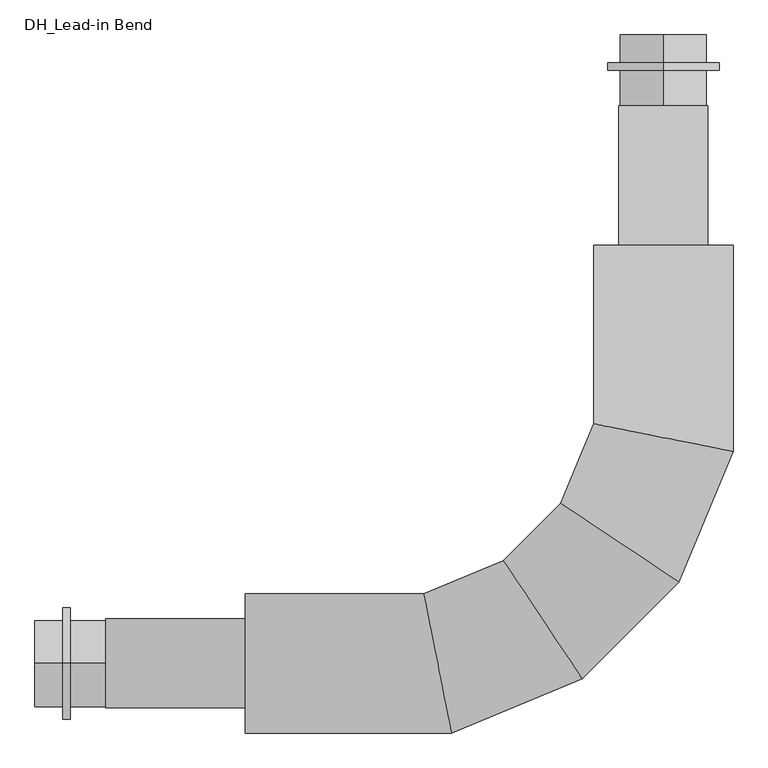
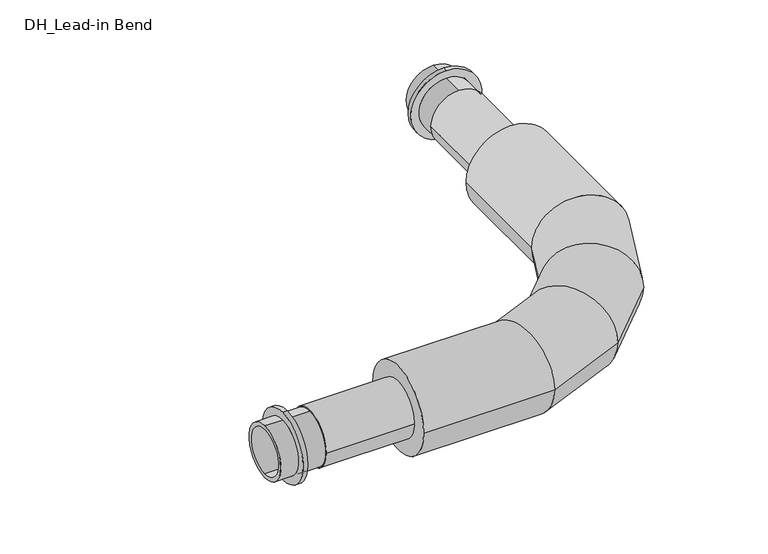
"""IFC4 building model written with IfcOpenShell, lengths in millimetres: pipe fitting geometry, DH_Lead-in Bend : RVT/RVX/RTX UNO 11 Heating Steel."""

from ifc_helpers import new_model, si_unit, point, frame, origin, origin_2d, place, context, project, spatial, polyline, circle_curve, ellipse_curve, trimmed, segment, composite_curve, outline, extrude, source, transform, mapped, element, save
from ifc_brep_helpers import plane_surface, cylinder_surface, revolved_surface, advanced_brep


def dh_lead_in_bend_0ec1a931(model_context):
    return source(origin(), model_context, "Body", "SolidModel", [
        advanced_brep(
        [(-750.0, -125.0, 0.0), (-750.0, 125.0, 0.0), (-380.1359541, -125.0, 0.0), (-429.8640459, 125.0, 0.0), (125.0, 750.0, 0.0), (-125.0, 750.0, 0.0), (-125.0, 429.8640459, 0.0), (125.0, 380.1359541, 0.0), (-145.4932282, -27.8078006, 0.0), (-287.1068525, 184.1319656, 0.0), (27.8078006, 145.4932282, 0.0), (-184.1319656, 287.1068525, 0.0)],
        [
            (0, 1, circle_curve(frame((-750.0, 0.0, 0.0), z_axis=(-1.0, 0.0, 0.0), x_axis=(0.0, 1.0, 0.0)), 125.0)),
            (1, 0, circle_curve(frame((-750.0, 0.0, 0.0), z_axis=(-1.0, 0.0, 0.0), x_axis=(0.0, 1.0, 0.0)), 125.0)),
            (0, 2),
            (2, 3, ellipse_curve(frame((-405.0, 0.0, 0.0), z_axis=(-0.9807852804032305, -0.1950903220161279, 0.0), x_axis=(-0.19509032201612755, 0.9807852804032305, 0.0)), 127.4488948, 125.0)),
            (3, 1),
            (3, 2, ellipse_curve(frame((-405.0, 0.0, 0.0), z_axis=(-0.9807852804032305, -0.1950903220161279, 0.0), x_axis=(-0.19509032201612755, 0.9807852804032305, 0.0)), 127.4488948, 125.0)),
            (4, 5, circle_curve(frame((0.0, 750.0, 0.0), z_axis=(0.0, 1.0, 0.0), x_axis=(-1.0, 0.0, 0.0)), 125.0)),
            (5, 4, circle_curve(frame((0.0, 750.0, 0.0), z_axis=(0.0, 1.0, 0.0), x_axis=(-1.0, 0.0, 0.0)), 125.0)),
            (6, 7, ellipse_curve(frame((0.0, 405.0, 0.0), z_axis=(0.1950903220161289, 0.9807852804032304, 0.0), x_axis=(0.9807852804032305, -0.19509032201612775, 0.0)), 127.4488948, 125.0)),
            (7, 4),
            (5, 6),
            (7, 6, ellipse_curve(frame((0.0, 405.0, 0.0), z_axis=(0.1950903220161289, 0.9807852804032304, 0.0), x_axis=(0.9807852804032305, -0.19509032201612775, 0.0)), 127.4488948, 125.0)),
            (2, 8),
            (8, 9, ellipse_curve(frame((-216.3000404, 78.1620825, 0.0), z_axis=(-0.8314696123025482, -0.5555702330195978, 0.0), x_axis=(-0.5555702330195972, 0.8314696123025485, 0.0)), 127.4488948, 125.0)),
            (9, 3),
            (9, 8, ellipse_curve(frame((-216.3000404, 78.1620825, 0.0), z_axis=(-0.8314696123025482, -0.5555702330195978, 0.0), x_axis=(-0.5555702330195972, 0.8314696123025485, 0.0)), 127.4488948, 125.0)),
            (8, 10),
            (10, 11, ellipse_curve(frame((-78.1620825, 216.3000404, 0.0), z_axis=(-0.555570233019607, -0.8314696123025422, 0.0), x_axis=(-0.8314696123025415, 0.5555702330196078, 0.0)), 127.4488948, 125.0)),
            (11, 9),
            (11, 10, ellipse_curve(frame((-78.1620825, 216.3000404, 0.0), z_axis=(-0.555570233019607, -0.8314696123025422, 0.0), x_axis=(-0.8314696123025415, 0.5555702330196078, 0.0)), 127.4488948, 125.0)),
            (10, 7),
            (6, 11),
        ],
        [
            plane_surface(frame((-750.0, 0.0, 0.0), z_axis=(-1.0, 0.0, 0.0), x_axis=(0.0, 0.0, 1.0))),
            cylinder_surface(frame((-750.0, 0.0, 0.0), z_axis=(-1.0, 0.0, 0.0), x_axis=(0.0, 1.0, 0.0)), 125.0),
            plane_surface(frame((0.0, 750.0, 0.0), z_axis=(0.0, 1.0, 0.0), x_axis=(0.0, 0.0, 1.0))),
            cylinder_surface(frame((0.0, 405.0, 0.0), z_axis=(0.0, -1.0, 0.0), x_axis=(-1.0, 0.0, 0.0)), 125.0),
            cylinder_surface(frame((-405.0, 0.0, 0.0), z_axis=(-0.9238795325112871, -0.382683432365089, 0.0), x_axis=(-0.382683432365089, 0.9238795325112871, 0.0)), 125.0),
            cylinder_surface(frame((-216.3000404, 78.1620825, 0.0), z_axis=(-0.7071067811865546, -0.7071067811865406, 0.0), x_axis=(-0.7071067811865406, 0.7071067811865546, 0.0)), 125.0),
            cylinder_surface(frame((-78.1620825, 216.3000404, 0.0), z_axis=(-0.38268343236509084, -0.9238795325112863, 0.0), x_axis=(-0.9238795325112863, 0.38268343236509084, 0.0)), 125.0),
        ],
        [
            (0, [[1, 2]]),
            (1, [[-1, 3, 4, 5]]),
            (1, [[-2, -5, 6, -3]]),
            (2, [[7, 8]]),
            (3, [[9, 10, -8, 11]]),
            (3, [[12, -11, -7, -10]]),
            (4, [[-4, 13, 14, 15]]),
            (4, [[-6, -15, 16, -13]]),
            (5, [[-14, 17, 18, 19]]),
            (5, [[-16, -19, 20, -17]]),
            (6, [[-18, 21, -9, 22]]),
            (6, [[-20, -22, -12, -21]]),
        ],
    ),
        extrude(outline(composite_curve([segment(trimmed(circle_curve(origin_2d(), 80.0), [point((-80.0, 0.0))], [point((80.0, 0.0))], False, "CARTESIAN"), True, "CONTINUOUS"), segment(trimmed(circle_curve(origin_2d(), 80.0), [point((80.0, 0.0))], [point((-80.0, 0.0))], False, "CARTESIAN"), True, "CONTINUOUS")], self_intersect=False), holes=[composite_curve([segment(trimmed(circle_curve(origin_2d(), 65.4), [point((-65.4, 0.0))], [point((65.4, 0.0))], True, "CARTESIAN"), True, "CONTINUOUS"), segment(trimmed(circle_curve(origin_2d(), 65.4), [point((65.4, 0.0))], [point((-65.4, 0.0))], True, "CARTESIAN"), True, "CONTINUOUS")], self_intersect=False)]), frame((-1000.0, 0.0, 0.0), z_axis=(1.0, 0.0, 0.0), x_axis=(0.0, 1.0, 0.0)), (0.0, 0.0, 1.0), 250.0),
        extrude(outline(composite_curve([segment(trimmed(circle_curve(origin_2d(), 80.0), [point((0.0, 80.0))], [point((0.0, -80.0))], False, "CARTESIAN"), True, "CONTINUOUS"), segment(trimmed(circle_curve(origin_2d(), 80.0), [point((0.0, -80.0))], [point((0.0, 80.0))], False, "CARTESIAN"), True, "CONTINUOUS")], self_intersect=False), holes=[composite_curve([segment(trimmed(circle_curve(origin_2d(), 65.4), [point((0.0, 65.4))], [point((0.0, -65.4))], True, "CARTESIAN"), True, "CONTINUOUS"), segment(trimmed(circle_curve(origin_2d(), 65.4), [point((0.0, -65.4))], [point((0.0, 65.4))], True, "CARTESIAN"), True, "CONTINUOUS")], self_intersect=False)]), frame((0.0, 750.0, 0.0), z_axis=(0.0, 1.0, 0.0), x_axis=(0.0, 0.0, 1.0)), (0.0, 0.0, 1.0), 250.0),
        advanced_brep(
        [(-1077.0, -0.2277324, 100.3993982), (-1077.0, -0.2277324, -100.4006018), (-1064.0, -0.2277324, -100.4006018), (-1064.0, -0.2277324, 100.3993982), (-1127.0, -0.2277324, 77.3993982), (-1127.0, -0.2277324, -77.4006018), (-1077.0, -0.2277324, -77.4006018), (-1077.0, -0.2277324, 77.3993982), (-1000.0, -0.2277324, 65.3993982), (-1000.0, -0.2277324, -65.4006018), (-1127.0, -0.2277324, -65.4006018), (-1127.0, -0.2277324, 65.3993982), (-1064.0, -0.2277324, 77.3993982), (-1064.0, -0.2277324, -77.4006018), (-1000.0, -0.2277324, -77.4006018), (-1000.0, -0.2277324, 77.3993982)],
        [
            (0, 1, circle_curve(frame((-1077.0, -0.2277324, -0.0006018), z_axis=(1.0, 0.0, 0.0), x_axis=(0.0, 0.0, -1.0)), 100.4)),
            (1, 2),
            (2, 3, circle_curve(frame((-1064.0, -0.2277324, -0.0006018), z_axis=(-1.0, 0.0, 0.0), x_axis=(0.0, 0.0, -1.0)), 100.4)),
            (3, 0),
            (4, 5, circle_curve(frame((-1127.0, -0.2277324, -0.0006018), z_axis=(1.0, 0.0, 0.0), x_axis=(0.0, 0.0, -1.0)), 77.4)),
            (5, 6),
            (6, 7, circle_curve(frame((-1077.0, -0.2277324, -0.0006018), z_axis=(-1.0, 0.0, 0.0), x_axis=(0.0, 0.0, -1.0)), 77.4)),
            (7, 4),
            (8, 9, circle_curve(frame((-1000.0, -0.2277324, -0.0006018), z_axis=(1.0, 0.0, 0.0), x_axis=(0.0, 0.0, -1.0)), 65.4)),
            (9, 10),
            (10, 11, circle_curve(frame((-1127.0, -0.2277324, -0.0006018), z_axis=(-1.0, 0.0, 0.0), x_axis=(0.0, 0.0, -1.0)), 65.4)),
            (11, 8),
            (2, 3, circle_curve(frame((-1064.0, -0.2277324, -0.0006018), z_axis=(1.0, 0.0, 0.0), x_axis=(0.0, 0.0, 1.0)), 100.4)),
            (12, 13, circle_curve(frame((-1064.0, -0.2277324, -0.0006018), z_axis=(-1.0, 0.0, 0.0), x_axis=(0.0, 0.0, 1.0)), 77.4)),
            (13, 12, circle_curve(frame((-1064.0, -0.2277324, -0.0006018), z_axis=(-1.0, 0.0, 0.0), x_axis=(0.0, 0.0, -1.0)), 77.4)),
            (1, 0, circle_curve(frame((-1077.0, -0.2277324, -0.0006018), z_axis=(1.0, 0.0, 0.0), x_axis=(0.0, 0.0, 1.0)), 100.4)),
            (6, 7, circle_curve(frame((-1077.0, -0.2277324, -0.0006018), z_axis=(1.0, 0.0, 0.0), x_axis=(0.0, 0.0, 1.0)), 77.4)),
            (5, 4, circle_curve(frame((-1127.0, -0.2277324, -0.0006018), z_axis=(1.0, 0.0, 0.0), x_axis=(0.0, 0.0, 1.0)), 77.4)),
            (10, 11, circle_curve(frame((-1127.0, -0.2277324, -0.0006018), z_axis=(1.0, 0.0, 0.0), x_axis=(0.0, 0.0, 1.0)), 65.4)),
            (9, 8, circle_curve(frame((-1000.0, -0.2277324, -0.0006018), z_axis=(1.0, 0.0, 0.0), x_axis=(0.0, 0.0, 1.0)), 65.4)),
            (13, 14),
            (14, 15, circle_curve(frame((-1000.0, -0.2277324, -0.0006018), z_axis=(-1.0, 0.0, 0.0), x_axis=(0.0, 0.0, -1.0)), 77.4)),
            (15, 12),
            (14, 15, circle_curve(frame((-1000.0, -0.2277324, -0.0006018), z_axis=(1.0, 0.0, 0.0), x_axis=(0.0, 0.0, 1.0)), 77.4)),
        ],
        [
            cylinder_surface(frame((-1000.0, -0.2277324, -0.0006018), z_axis=(-1.0, 0.0, 0.0), x_axis=(0.0, 0.0, -1.0)), 100.4),
            cylinder_surface(frame((-1000.0, -0.2277324, -0.0006018), z_axis=(-1.0, 0.0, 0.0), x_axis=(0.0, 0.0, -1.0)), 77.4),
            revolved_surface(polyline([(-1127.0, -0.2277324, -65.4006018), (-1000.0, -0.2277324, -65.4006018)]), (-1000.0, -0.2277324, -0.0006018), (-1.0, 0.0, 0.0)),
            plane_surface(frame((-1064.0, -0.2277324, -0.0006018), z_axis=(1.0, 0.0, 0.0), x_axis=(0.0, 0.0, 1.0))),
            cylinder_surface(frame((-1000.0, -0.2277324, -0.0006018), z_axis=(-1.0, 0.0, 0.0), x_axis=(0.0, 0.0, 1.0)), 100.4),
            plane_surface(frame((-1077.0, -0.2277324, -0.0006018), z_axis=(-1.0, 0.0, 0.0), x_axis=(0.0, 0.0, 1.0))),
            cylinder_surface(frame((-1000.0, -0.2277324, -0.0006018), z_axis=(-1.0, 0.0, 0.0), x_axis=(0.0, 0.0, 1.0)), 77.4),
            plane_surface(frame((-1127.0, -0.2277324, -0.0006018), z_axis=(-1.0, 0.0, 0.0), x_axis=(0.0, 0.0, 1.0))),
            revolved_surface(polyline([(-1127.0, -0.2277324, 65.39939820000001), (-1000.0, -0.2277324, 65.39939820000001)]), (-1000.0, -0.2277324, -0.0006018), (-1.0, 0.0, 0.0)),
            plane_surface(frame((-1000.0, -0.2277324, -0.0006018), z_axis=(1.0, 0.0, 0.0), x_axis=(0.0, 0.0, 1.0))),
        ],
        [
            (0, [[1, 2, 3, 4]]),
            (1, [[5, 6, 7, 8]]),
            (2, [[9, 10, 11, 12]]),
            (3, [[13, -3], [14, 15]]),
            (4, [[16, -4, -13, -2]]),
            (5, [[-16, -1], [17, -7]]),
            (6, [[18, -8, -17, -6]]),
            (7, [[-18, -5], [19, -11]]),
            (8, [[20, -12, -19, -10]]),
            (1, [[-15, 21, 22, 23]]),
            (9, [[24, -22], [-20, -9]]),
            (6, [[-14, -23, -24, -21]]),
        ],
    ),
        advanced_brep(
        [(0.2277328, 1077.0, 100.3993982), (0.2277328, 1077.0, -100.4006018), (0.2277328, 1064.0, -100.4006018), (0.2277328, 1064.0, 100.3993982), (0.2277328, 1127.0, 77.3993982), (0.2277328, 1127.0, -77.4006018), (0.2277328, 1077.0, -77.4006018), (0.2277328, 1077.0, 77.3993982), (0.2277328, 1000.0, 65.3993982), (0.2277328, 1000.0, -65.4006018), (0.2277328, 1127.0, -65.4006018), (0.2277328, 1127.0, 65.3993982), (0.2277328, 1064.0, 77.3993982), (0.2277328, 1064.0, -77.4006018), (0.2277328, 1000.0, -77.4006018), (0.2277328, 1000.0, 77.3993982)],
        [
            (0, 1, circle_curve(frame((0.2277328, 1077.0, -0.0006018), z_axis=(0.0, -1.0, 0.0), x_axis=(0.0, 0.0, -1.0)), 100.4)),
            (1, 2),
            (2, 3, circle_curve(frame((0.2277328, 1064.0, -0.0006018), z_axis=(0.0, 1.0, 0.0), x_axis=(0.0, 0.0, -1.0)), 100.4)),
            (3, 0),
            (4, 5, circle_curve(frame((0.2277328, 1127.0, -0.0006018), z_axis=(0.0, -1.0, 0.0), x_axis=(0.0, 0.0, -1.0)), 77.4)),
            (5, 6),
            (6, 7, circle_curve(frame((0.2277328, 1077.0, -0.0006018), z_axis=(0.0, 1.0, 0.0), x_axis=(0.0, 0.0, -1.0)), 77.4)),
            (7, 4),
            (8, 9, circle_curve(frame((0.2277328, 1000.0, -0.0006018), z_axis=(0.0, -1.0, 0.0), x_axis=(0.0, 0.0, -1.0)), 65.4)),
            (9, 10),
            (10, 11, circle_curve(frame((0.2277328, 1127.0, -0.0006018), z_axis=(0.0, 1.0, 0.0), x_axis=(0.0, 0.0, -1.0)), 65.4)),
            (11, 8),
            (2, 3, circle_curve(frame((0.2277328, 1064.0, -0.0006018), z_axis=(0.0, -1.0, 0.0), x_axis=(0.0, 0.0, 1.0)), 100.4)),
            (12, 13, circle_curve(frame((0.2277328, 1064.0, -0.0006018), z_axis=(0.0, 1.0, 0.0), x_axis=(0.0, 0.0, 1.0)), 77.4)),
            (13, 12, circle_curve(frame((0.2277328, 1064.0, -0.0006018), z_axis=(0.0, 1.0, 0.0), x_axis=(0.0, 0.0, -1.0)), 77.4)),
            (1, 0, circle_curve(frame((0.2277328, 1077.0, -0.0006018), z_axis=(0.0, -1.0, 0.0), x_axis=(0.0, 0.0, 1.0)), 100.4)),
            (6, 7, circle_curve(frame((0.2277328, 1077.0, -0.0006018), z_axis=(0.0, -1.0, 0.0), x_axis=(0.0, 0.0, 1.0)), 77.4)),
            (5, 4, circle_curve(frame((0.2277328, 1127.0, -0.0006018), z_axis=(0.0, -1.0, 0.0), x_axis=(0.0, 0.0, 1.0)), 77.4)),
            (10, 11, circle_curve(frame((0.2277328, 1127.0, -0.0006018), z_axis=(0.0, -1.0, 0.0), x_axis=(0.0, 0.0, 1.0)), 65.4)),
            (9, 8, circle_curve(frame((0.2277328, 1000.0, -0.0006018), z_axis=(0.0, -1.0, 0.0), x_axis=(0.0, 0.0, 1.0)), 65.4)),
            (13, 14),
            (14, 15, circle_curve(frame((0.2277328, 1000.0, -0.0006018), z_axis=(0.0, 1.0, 0.0), x_axis=(0.0, 0.0, -1.0)), 77.4)),
            (15, 12),
            (14, 15, circle_curve(frame((0.2277328, 1000.0, -0.0006018), z_axis=(0.0, -1.0, 0.0), x_axis=(0.0, 0.0, 1.0)), 77.4)),
        ],
        [
            cylinder_surface(frame((0.2277328, 1000.0, -0.0006018), z_axis=(0.0, 1.0, 0.0), x_axis=(0.0, 0.0, -1.0)), 100.4),
            cylinder_surface(frame((0.2277328, 1000.0, -0.0006018), z_axis=(0.0, 1.0, 0.0), x_axis=(0.0, 0.0, -1.0)), 77.4),
            revolved_surface(polyline([(0.2277328, 1127.0, -65.4006018), (0.2277328, 1000.0, -65.4006018)]), (0.2277328, 1000.0, -0.0006018), (0.0, 1.0, 0.0)),
            plane_surface(frame((0.2277328, 1064.0, -0.0006018), z_axis=(0.0, -1.0, 0.0), x_axis=(0.0, 0.0, 1.0))),
            cylinder_surface(frame((0.2277328, 1000.0, -0.0006018), z_axis=(0.0, 1.0, 0.0), x_axis=(0.0, 0.0, 1.0)), 100.4),
            plane_surface(frame((0.2277328, 1077.0, -0.0006018), z_axis=(0.0, 1.0, 0.0), x_axis=(0.0, 0.0, 1.0))),
            cylinder_surface(frame((0.2277328, 1000.0, -0.0006018), z_axis=(0.0, 1.0, 0.0), x_axis=(0.0, 0.0, 1.0)), 77.4),
            plane_surface(frame((0.2277328, 1127.0, -0.0006018), z_axis=(0.0, 1.0, 0.0), x_axis=(0.0, 0.0, 1.0))),
            revolved_surface(polyline([(0.2277328, 1127.0, 65.39939820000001), (0.2277328, 1000.0, 65.39939820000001)]), (0.2277328, 1000.0, -0.0006018), (0.0, 1.0, 0.0)),
            plane_surface(frame((0.2277328, 1000.0, -0.0006018), z_axis=(0.0, -1.0, 0.0), x_axis=(0.0, 0.0, 1.0))),
        ],
        [
            (0, [[1, 2, 3, 4]]),
            (1, [[5, 6, 7, 8]]),
            (2, [[9, 10, 11, 12]]),
            (3, [[13, -3], [14, 15]]),
            (4, [[16, -4, -13, -2]]),
            (5, [[-16, -1], [17, -7]]),
            (6, [[18, -8, -17, -6]]),
            (7, [[-18, -5], [19, -11]]),
            (8, [[20, -12, -19, -10]]),
            (1, [[-15, 21, 22, 23]]),
            (9, [[24, -22], [-20, -9]]),
            (6, [[-14, -23, -24, -21]]),
        ],
    ),
    ])


if __name__ == "__main__":
    model = new_model("IFC4")
    model_context = context("Model", 3, world=origin())
    ifc_project = project(units=[si_unit("LENGTHUNIT", "METRE", prefix="MILLI")], contexts=[model_context])
    site = spatial("IfcSite", under=ifc_project)
    building = spatial("IfcBuilding", under=site)
    placement = place(None, origin())
    dh_lead_in_bend_shape = dh_lead_in_bend_0ec1a931(model_context)
    element("IfcPipeFitting", 1, ObjectType="DH_Lead-in Bend : RVT/RVX/RTX UNO 11 Heating Steel", at=placement, inside=building, context=model_context, shape_type="MappedRepresentation", body=[
        mapped(dh_lead_in_bend_shape, transform((0.0, 0.0, 0.0), x_axis=(1.0, 0.0, 0.0), y_axis=(0.0, 1.0, 0.0), z_axis=(0.0, 0.0, 1.0))),
    ])
    save(model, "model.ifc")
